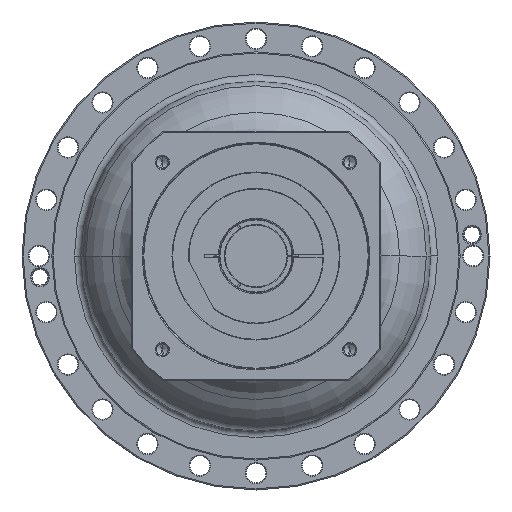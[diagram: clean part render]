
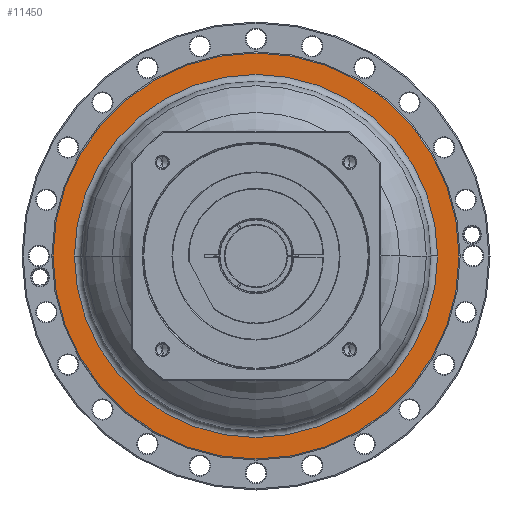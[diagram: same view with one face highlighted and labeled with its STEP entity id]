
A CAD part, left-side view. The second image highlights one B-rep face of the part: STEP entity #11450.
In plain terms, the highlighted planar face has unit normal (-1, 0, 0) as drawn and (1, 0, 0) by its records, which use the part's own axes.
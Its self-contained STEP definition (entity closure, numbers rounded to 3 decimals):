
#10687=CARTESIAN_POINT('',(-101.,0.,0.));
#10688=DIRECTION('',(-1.,0.,0.));
#10689=DIRECTION('',(0.,-1.,0.));
#10690=AXIS2_PLACEMENT_3D('',#10687,#10688,#10689);
#10692=CARTESIAN_POINT('',(-101.,0.,0.));
#10693=DIRECTION('',(-1.,0.,0.));
#10694=DIRECTION('',(0.,1.,0.));
#10695=AXIS2_PLACEMENT_3D('',#10692,#10693,#10694);
#10697=CARTESIAN_POINT('',(-101.,0.,0.));
#10698=DIRECTION('',(-1.,0.,0.));
#10699=DIRECTION('',(0.,-1.,0.));
#10700=AXIS2_PLACEMENT_3D('',#10697,#10698,#10699);
#10702=CARTESIAN_POINT('',(-101.,0.,0.));
#10703=DIRECTION('',(-1.,0.,0.));
#10704=DIRECTION('',(0.,1.,0.));
#10705=AXIS2_PLACEMENT_3D('',#10702,#10703,#10704);
#10837=CARTESIAN_POINT('',(-101.,-180.,0.));
#10838=CARTESIAN_POINT('',(-101.,180.,0.));
#10839=VERTEX_POINT('',#10837);
#10840=VERTEX_POINT('',#10838);
#10887=CARTESIAN_POINT('',(-101.,-161.,0.));
#10888=CARTESIAN_POINT('',(-101.,161.,0.));
#10889=VERTEX_POINT('',#10887);
#10890=VERTEX_POINT('',#10888);
#11435=CARTESIAN_POINT('',(-101.,0.,0.));
#11436=DIRECTION('',(1.,0.,0.));
#11437=DIRECTION('',(0.,-1.,0.));
#11438=AXIS2_PLACEMENT_3D('',#11435,#11436,#11437);
#11439=PLANE('',#11438);
#11441=ORIENTED_EDGE('',*,*,#11440,.T.);
#11443=ORIENTED_EDGE('',*,*,#11442,.T.);
#11444=EDGE_LOOP('',(#11441,#11443));
#11445=FACE_OUTER_BOUND('',#11444,.F.);
#11446=ORIENTED_EDGE('',*,*,#11429,.F.);
#11447=ORIENTED_EDGE('',*,*,#11415,.F.);
#11448=EDGE_LOOP('',(#11446,#11447));
#11449=FACE_BOUND('',#11448,.F.);
#11450=ADVANCED_FACE('',(#11445,#11449),#11439,.T.);
#10691=CIRCLE('',#10690,161.);
#10696=CIRCLE('',#10695,161.);
#10701=CIRCLE('',#10700,180.);
#10706=CIRCLE('',#10705,180.);
#11415=EDGE_CURVE('',#10890,#10889,#10696,.T.);
#11429=EDGE_CURVE('',#10889,#10890,#10691,.T.);
#11440=EDGE_CURVE('',#10839,#10840,#10701,.T.);
#11442=EDGE_CURVE('',#10840,#10839,#10706,.T.);
